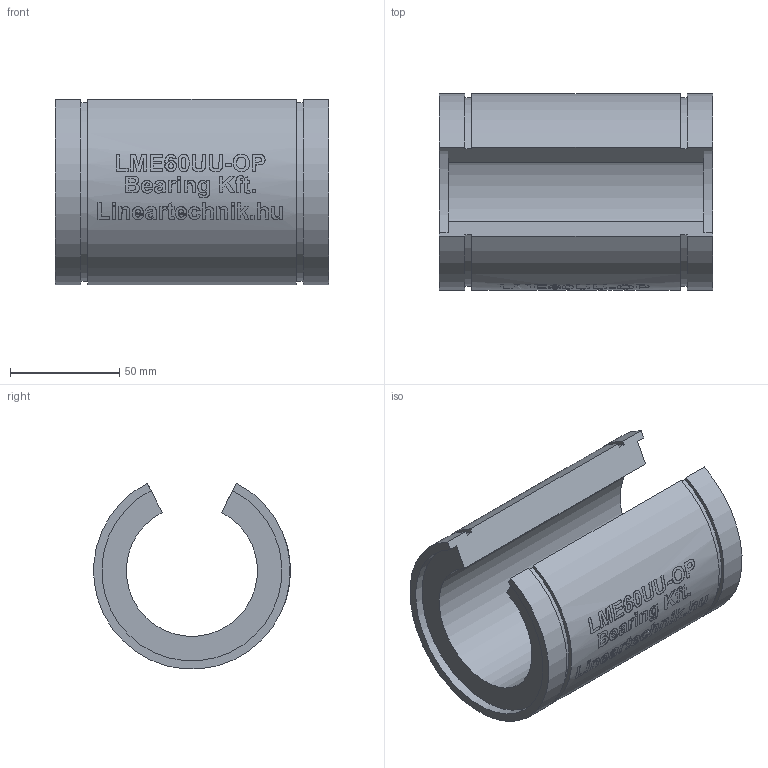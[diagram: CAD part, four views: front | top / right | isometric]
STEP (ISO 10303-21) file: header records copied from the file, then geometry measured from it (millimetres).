
FILE_DESCRIPTION(/* description */ (''),/* implementation_level */ '2;1');
FILE_NAME(/* name */ 'LME60UU-OP',/* time_stamp */ '2019-07-02T16:23:27+02:00',/* author */ ('VĂ©gh MĂˇtĂ©'),/* organization */ ('Bearing Kft'),/* preprocessor_version */ 'ST-DEVELOPER v16.7',/* originating_system */ 'DEX',/* authorisation */ $);
FILE_SCHEMA (('AUTOMOTIVE_DESIGN {1 0 10303 214 3 1 1}'));
Length unit declared in the file: millimetre
Products named in the file (1): LME60UU-OP
Bounding box: 125 x 89.9 x 84.94 mm (x, y, z)
Volume: 355873.2 mm3; surface area: 61849.2 mm2
Topology: 1 solids, 3 shells, 333 faces, 840 edges, 562 vertices
Faces by surface type: plane 175, bspline 98, cylinder 60
Entity records: 22528 total; most frequent: CARTESIAN_POINT 15031, ORIENTED_EDGE 1662, DIRECTION 1266, EDGE_CURVE 831, VERTEX_POINT 558, LINE 470, VECTOR 470, AXIS2_PLACEMENT_3D 398
